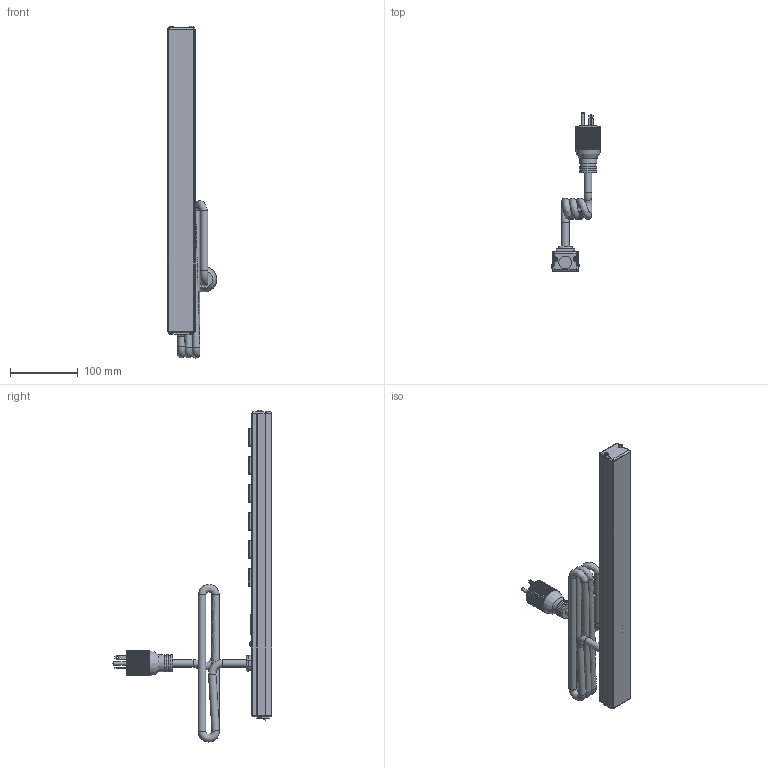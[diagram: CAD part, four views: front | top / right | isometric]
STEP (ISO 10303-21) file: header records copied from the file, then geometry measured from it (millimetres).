
FILE_DESCRIPTION((''),'2;1');
FILE_NAME('E:\Dutton\Manufacturing\drawings\Updated 2009\Vertical Rack Mount Strips\1589 Series\STEP''s\1589T18F1.stp','2010-01-21T08:33:47',('tfoster'),(''),'Autodesk Inventor 2010','Autodesk Inventor 2010','');
FILE_SCHEMA(('AUTOMOTIVE_DESIGN { 1 0 10303 214 1 1 1 1 }'));
Products named in the file (12): 1589T18F1; 18' - 6 Outlet top; 18' bottom; End Cap; End Cap w breaker; Reset Switch; #6 - 0.375 Type A screw; 20 amp Cored; toothwasher; round head 1-way 8-32 x 0.5 screw; 20 Amp Receptacle; Pilot light
Assembly tree (17 placements, depth 2):
  1589T18F1
    End Cap
    End Cap w breaker
    Reset Switch
    #6 - 0.375 Type A screw  x4
    20 amp Cored
    toothwasher
    round head 1-way 8-32 x 0.5 screw
    20 Amp Receptacle  x6
    Pilot light
  18' - 6 Outlet top
  18' bottom
Bounding box: 72.44 x 234.82 x 488.84 mm (x, y, z)
Volume: 392968.9 mm3; surface area: 239658.2 mm2
Topology: 19 solids, 19 shells, 1156 faces, 3304 edges, 2185 vertices
Faces by surface type: plane 740, cylinder 250, bspline 97, sphere 30, cone 23, torus 16
Full cylindrical faces by diameter (mm): 1.803 x3, 1.905 x2, 3.175 x12, 3.2 x2, 4.3 x1, 4.826 x2, 7.849 x1, 11 x4, 12.5 x1, 19.05 x2, 22.606 x2, 25.146 x3
Entity records: 28652 total; most frequent: CARTESIAN_POINT 8800, ORIENTED_EDGE 4224, DIRECTION 3801, EDGE_CURVE 2112, VERTEX_POINT 1445, VECTOR 1287, LINE 1287, AXIS2_PLACEMENT_3D 1257
